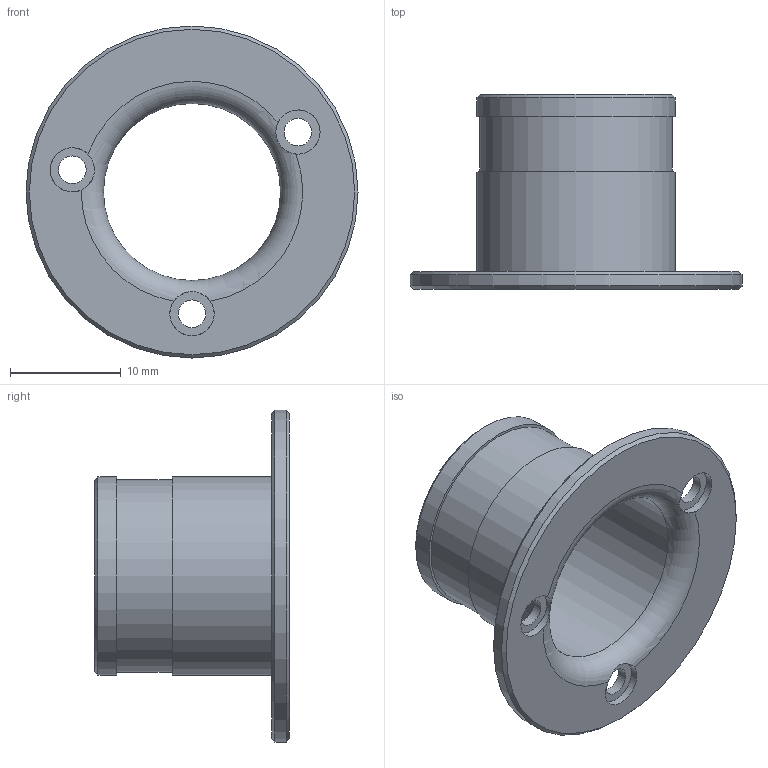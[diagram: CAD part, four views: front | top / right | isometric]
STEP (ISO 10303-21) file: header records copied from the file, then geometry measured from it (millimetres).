
FILE_DESCRIPTION (( 'STEP AP214' ), '1' );
FILE_NAME ('盄擢悵誘杶.STEP', '2026-05-21T03:43:20', ( 'Windows User' ), ( 'P R C' ), 'SwSTEP 2.0', 'SolidWorks 2021', '' );
FILE_SCHEMA (( 'AUTOMOTIVE_DESIGN' ));
Length unit declared in the file: millimetre
Products named in the file (1): 盄擢悵誘杶
Bounding box: 30 x 17.6 x 30 mm (x, y, z)
Volume: 1451.4 mm3; surface area: 2889.6 mm2
Topology: 1 solids, 1 shells, 24 faces, 55 edges, 36 vertices
Faces by surface type: cylinder 11, plane 8, cone 4, torus 1
Full cylindrical faces by diameter (mm): 2.5 x3, 4 x3, 16 x1, 17.4 x1, 17.9 x2, 30 x1
Entity records: 644 total; most frequent: CARTESIAN_POINT 137, DIRECTION 108, ORIENTED_EDGE 64, AXIS2_PLACEMENT_3D 54, EDGE_LOOP 51, FACE_OUTER_BOUND 36, EDGE_CURVE 32, CIRCLE 29
